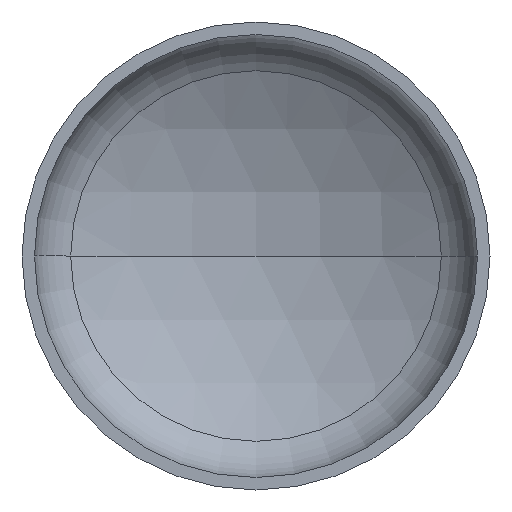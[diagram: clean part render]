
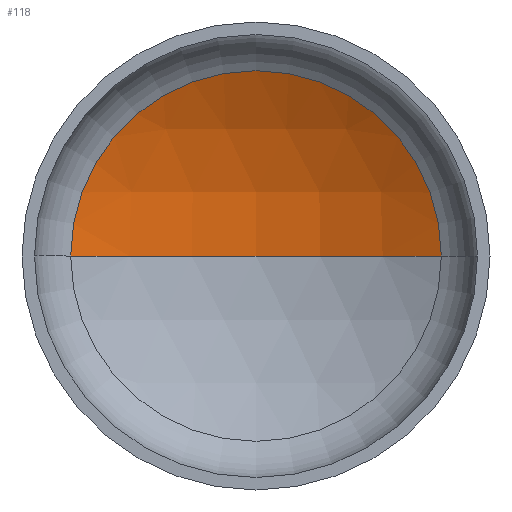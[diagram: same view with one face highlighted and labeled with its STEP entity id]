
A CAD part, front view. The second image highlights one B-rep face of the part: STEP entity #118.
In plain terms, the highlighted spherical face has radius 480 mm.
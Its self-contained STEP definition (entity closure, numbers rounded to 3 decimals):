
#6 = CARTESIAN_POINT ( 'NONE',  ( 0., -282.165, 0. ) ) ;
#15 = EDGE_LOOP ( 'NONE', ( #141, #101, #115 ) ) ;
#16 = AXIS2_PLACEMENT_3D ( 'NONE', #323, #176, #267 ) ;
#19 = AXIS2_PLACEMENT_3D ( 'NONE', #253, #409, #411 ) ;
#21 = VERTEX_POINT ( 'NONE', #246 ) ;
#81 = AXIS2_PLACEMENT_3D ( 'NONE', #314, #192, #345 ) ;
#101 = ORIENTED_EDGE ( 'NONE', *, *, #344, .T. ) ;
#103 = VERTEX_POINT ( 'NONE', #407 ) ;
#106 = VERTEX_POINT ( 'NONE', #318 ) ;
#115 = ORIENTED_EDGE ( 'NONE', *, *, #340, .T. ) ;
#118 = ADVANCED_FACE ( 'NONE', ( #204 ), #384, .F. ) ;
#132 = DIRECTION ( 'NONE',  ( 1., 0., 0. ) ) ;
#141 = ORIENTED_EDGE ( 'NONE', *, *, #379, .F. ) ;
#152 = CIRCLE ( 'NONE', #19, 237.526 ) ;
#176 = DIRECTION ( 'NONE',  ( 0., 0., -1. ) ) ;
#192 = DIRECTION ( 'NONE',  ( 0., 0., -1. ) ) ;
#204 = FACE_OUTER_BOUND ( 'NONE', #15, .T. ) ;
#246 = CARTESIAN_POINT ( 'NONE',  ( -237.526, 134.946, 0. ) ) ;
#253 = CARTESIAN_POINT ( 'NONE',  ( 0., 134.946, 0. ) ) ;
#259 = AXIS2_PLACEMENT_3D ( 'NONE', #6, #278, #132 ) ;
#267 = DIRECTION ( 'NONE',  ( -1., 0., 0. ) ) ;
#278 = DIRECTION ( 'NONE',  ( 0., 0., 1. ) ) ;
#314 = CARTESIAN_POINT ( 'NONE',  ( 0., -282.165, 0. ) ) ;
#318 = CARTESIAN_POINT ( 'NONE',  ( 0., 197.835, 0. ) ) ;
#323 = CARTESIAN_POINT ( 'NONE',  ( 0., -282.165, 0. ) ) ;
#337 = CIRCLE ( 'NONE', #259, 480. ) ;
#340 = EDGE_CURVE ( 'NONE', #103, #21, #152, .T. ) ;
#344 = EDGE_CURVE ( 'NONE', #106, #103, #397, .T. ) ;
#345 = DIRECTION ( 'NONE',  ( -1., 0., 0. ) ) ;
#379 = EDGE_CURVE ( 'NONE', #106, #21, #337, .T. ) ;
#384 = SPHERICAL_SURFACE ( 'NONE', #81, 480. ) ;
#397 = CIRCLE ( 'NONE', #16, 480. ) ;
#407 = CARTESIAN_POINT ( 'NONE',  ( 237.526, 134.946, 0. ) ) ;
#409 = DIRECTION ( 'NONE',  ( 0., -1., 0. ) ) ;
#411 = DIRECTION ( 'NONE',  ( 1., 0., 0. ) ) ;
